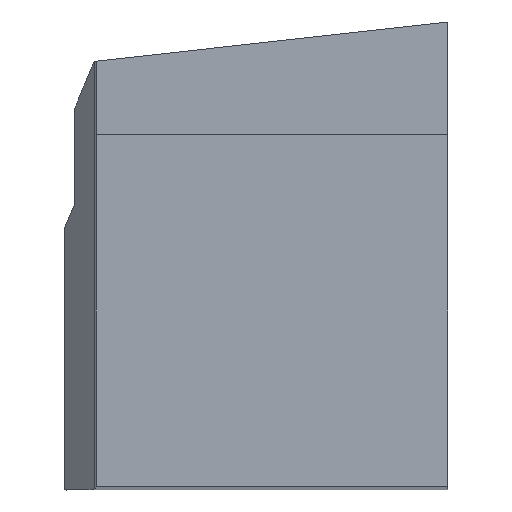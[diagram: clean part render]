
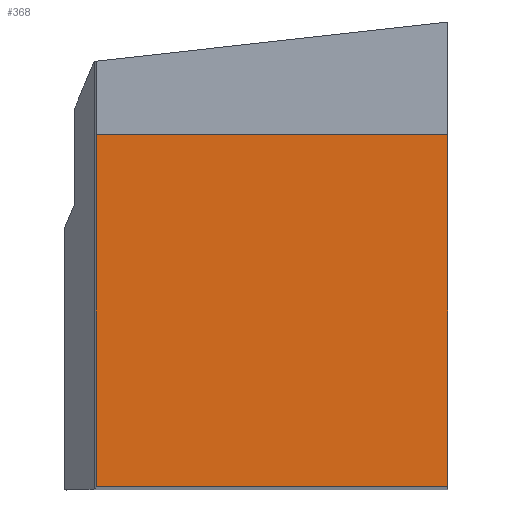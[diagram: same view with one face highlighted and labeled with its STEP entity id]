
A CAD part, top view. The second image highlights one B-rep face of the part: STEP entity #368.
In plain terms, the highlighted planar face has unit normal (0, 0, 1).
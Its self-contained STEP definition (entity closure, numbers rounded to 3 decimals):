
#188=VERTEX_POINT('',#499);
#196=VERTEX_POINT('',#507);
#208=EDGE_CURVE('',#188,#412,#522,.T.);
#236=EDGE_CURVE('',#412,#278,#553,.T.);
#278=VERTEX_POINT('',#601);
#280=EDGE_CURVE('',#196,#188,#603,.T.);
#368=ADVANCED_FACE('',(#696),#697,.F.);
#412=VERTEX_POINT('',#744);
#440=EDGE_CURVE('',#278,#196,#775,.T.);
#499=CARTESIAN_POINT('',(0.,16.0,0.0));
#507=CARTESIAN_POINT('',(-16.0,16.0,0.0));
#522=LINE('',#859,#860);
#553=LINE('',#903,#904);
#601=CARTESIAN_POINT('',(-16.0,0.,0.0));
#603=LINE('',#967,#968);
#696=FACE_OUTER_BOUND('',#1105,.T.);
#697=PLANE('',#1106);
#744=CARTESIAN_POINT('',(0.,0.,0.0));
#775=LINE('',#1215,#1216);
#859=CARTESIAN_POINT('',(0.,16.0,0.0));
#860=VECTOR('',#1313,1.0);
#903=CARTESIAN_POINT('',(0.,0.,0.0));
#904=VECTOR('',#1348,1.0);
#967=CARTESIAN_POINT('',(-16.0,16.0,0.0));
#968=VECTOR('',#1416,1.0);
#1105=EDGE_LOOP('',(#1494,#1495,#1496,#1497));
#1106=AXIS2_PLACEMENT_3D('',#1498,#1499,#1500);
#1215=CARTESIAN_POINT('',(-16.0,0.,0.0));
#1216=VECTOR('',#1583,1.0);
#1313=DIRECTION('',(0.0,-1.0,0.0));
#1348=DIRECTION('',(-1.0,0.0,0.0));
#1416=DIRECTION('',(1.0,0.0,0.0));
#1494=ORIENTED_EDGE('',*,*,#280,.F.);
#1495=ORIENTED_EDGE('',*,*,#440,.F.);
#1496=ORIENTED_EDGE('',*,*,#236,.F.);
#1497=ORIENTED_EDGE('',*,*,#208,.F.);
#1498=CARTESIAN_POINT('',(-8.0,8.0,0.0));
#1499=DIRECTION('',(0.0,0.0,-1.0));
#1500=DIRECTION('',(-1.0,0.0,0.0));
#1583=DIRECTION('',(0.0,1.0,0.0));
